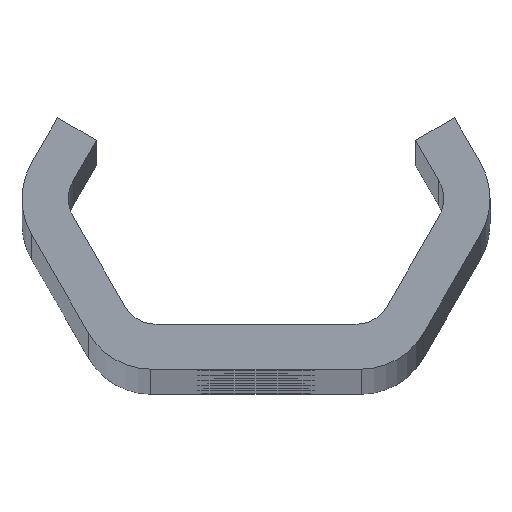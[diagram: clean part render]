
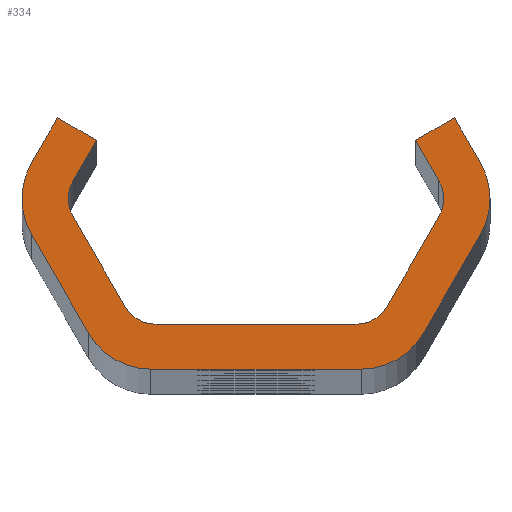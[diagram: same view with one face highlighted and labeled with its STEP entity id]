
A CAD part, top view. The second image highlights one B-rep face of the part: STEP entity #334.
In plain terms, the highlighted planar face has unit normal (0, 0, 1).
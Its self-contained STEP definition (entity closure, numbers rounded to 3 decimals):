
#334=ADVANCED_FACE('NONE',(#870),#871,.F.);
#870=FACE_OUTER_BOUND('',#2614,.T.);
#871=PLANE('',#2615);
#2614=EDGE_LOOP('',(#5256,#5257,#5258,#5259,#5260,#5261,#5262,#5263,#5264,#5265,#5266,#5267,#5268,#5269,#5270,#5271,#5272,#5273,#5274,#5275,#5276,#5277,#5278,#5279));
#2615=AXIS2_PLACEMENT_3D('',#5280,#5281,#5282);
#5256=ORIENTED_EDGE('',*,*,#6969,.T.);
#5257=ORIENTED_EDGE('',*,*,#6986,.T.);
#5258=ORIENTED_EDGE('',*,*,#6971,.T.);
#5259=ORIENTED_EDGE('',*,*,#6987,.T.);
#5260=ORIENTED_EDGE('',*,*,#6980,.F.);
#5261=ORIENTED_EDGE('',*,*,#6988,.T.);
#5262=ORIENTED_EDGE('',*,*,#6673,.T.);
#5263=ORIENTED_EDGE('',*,*,#6983,.F.);
#5264=ORIENTED_EDGE('',*,*,#6821,.F.);
#5265=ORIENTED_EDGE('',*,*,#6825,.F.);
#5266=ORIENTED_EDGE('',*,*,#6747,.T.);
#5267=ORIENTED_EDGE('',*,*,#6989,.T.);
#5268=ORIENTED_EDGE('',*,*,#6829,.F.);
#5269=ORIENTED_EDGE('',*,*,#6990,.T.);
#5270=ORIENTED_EDGE('',*,*,#6834,.F.);
#5271=ORIENTED_EDGE('',*,*,#6991,.T.);
#5272=ORIENTED_EDGE('',*,*,#6952,.T.);
#5273=ORIENTED_EDGE('',*,*,#6992,.T.);
#5274=ORIENTED_EDGE('',*,*,#6668,.T.);
#5275=ORIENTED_EDGE('',*,*,#6955,.T.);
#5276=ORIENTED_EDGE('',*,*,#6961,.T.);
#5277=ORIENTED_EDGE('',*,*,#6965,.T.);
#5278=ORIENTED_EDGE('',*,*,#6993,.T.);
#5279=ORIENTED_EDGE('',*,*,#6750,.T.);
#5280=CARTESIAN_POINT('',(0.0,0.0,800.0));
#5281=DIRECTION('',(0.0,0.0,-1.0));
#5282=DIRECTION('',(0.0,-1.0,0.0));
#6668=EDGE_CURVE('NONE',#7448,#7452,#7454,.T.);
#6673=EDGE_CURVE('NONE',#7457,#7461,#7463,.T.);
#6747=EDGE_CURVE('NONE',#7596,#7594,#7597,.T.);
#6750=EDGE_CURVE('NONE',#7600,#7601,#7602,.T.);
#6821=EDGE_CURVE('NONE',#7708,#7710,#7711,.T.);
#6825=EDGE_CURVE('NONE',#7596,#7708,#7715,.T.);
#6829=EDGE_CURVE('NONE',#7720,#7722,#7723,.T.);
#6834=EDGE_CURVE('NONE',#7729,#7731,#7732,.T.);
#6952=EDGE_CURVE('NONE',#7958,#7956,#7959,.T.);
#6955=EDGE_CURVE('NONE',#7452,#7962,#7963,.T.);
#6961=EDGE_CURVE('NONE',#7962,#7970,#7972,.T.);
#6965=EDGE_CURVE('NONE',#7970,#7976,#7978,.T.);
#6969=EDGE_CURVE('NONE',#7601,#7982,#7984,.T.);
#6971=EDGE_CURVE('NONE',#7986,#7987,#7988,.T.);
#6980=EDGE_CURVE('NONE',#8000,#8002,#8003,.T.);
#6983=EDGE_CURVE('NONE',#7710,#7461,#8006,.T.);
#6986=EDGE_CURVE('NONE',#7982,#7986,#8009,.T.);
#6987=EDGE_CURVE('NONE',#7987,#8002,#8010,.T.);
#6988=EDGE_CURVE('NONE',#8000,#7457,#8011,.T.);
#6989=EDGE_CURVE('NONE',#7594,#7722,#8012,.T.);
#6990=EDGE_CURVE('NONE',#7720,#7731,#8013,.T.);
#6991=EDGE_CURVE('NONE',#7729,#7958,#8014,.T.);
#6992=EDGE_CURVE('NONE',#7956,#7448,#8015,.T.);
#6993=EDGE_CURVE('NONE',#7976,#7600,#8016,.T.);
#7448=VERTEX_POINT('',#8606);
#7452=VERTEX_POINT('NONE',#8611);
#7454=CIRCLE('',#8614,2.0);
#7457=VERTEX_POINT('',#8617);
#7461=VERTEX_POINT('NONE',#8622);
#7463=CIRCLE('',#8625,4.0);
#7594=VERTEX_POINT('NONE',#9810);
#7596=VERTEX_POINT('NONE',#9813);
#7597=CIRCLE('',#9814,2.0);
#7600=VERTEX_POINT('NONE',#9818);
#7601=VERTEX_POINT('NONE',#9819);
#7602=CIRCLE('',#9820,4.0);
#7708=VERTEX_POINT('NONE',#9945);
#7710=VERTEX_POINT('NONE',#9948);
#7711=LINE('',#9949,#9950);
#7715=LINE('',#9956,#9957);
#7720=VERTEX_POINT('NONE',#9963);
#7722=VERTEX_POINT('NONE',#9966);
#7723=LINE('',#9967,#9968);
#7729=VERTEX_POINT('NONE',#9976);
#7731=VERTEX_POINT('NONE',#9979);
#7732=LINE('',#9980,#9981);
#7956=VERTEX_POINT('NONE',#10807);
#7958=VERTEX_POINT('NONE',#10810);
#7959=LINE('',#10811,#10812);
#7962=VERTEX_POINT('NONE',#10816);
#7963=LINE('',#10817,#10818);
#7970=VERTEX_POINT('NONE',#10828);
#7972=LINE('',#10831,#10832);
#7976=VERTEX_POINT('NONE',#10837);
#7978=LINE('',#10840,#10841);
#7982=VERTEX_POINT('NONE',#10846);
#7984=LINE('',#10849,#10850);
#7986=VERTEX_POINT('NONE',#10852);
#7987=VERTEX_POINT('NONE',#10853);
#7988=LINE('',#10854,#10855);
#8000=VERTEX_POINT('NONE',#10871);
#8002=VERTEX_POINT('NONE',#10874);
#8003=LINE('',#10875,#10876);
#8006=LINE('',#10880,#10881);
#8009=CIRCLE('',#10885,4.0);
#8010=CIRCLE('',#10886,4.0);
#8011=CIRCLE('',#10887,4.0);
#8012=CIRCLE('',#10888,2.0);
#8013=CIRCLE('',#10889,2.0);
#8014=CIRCLE('',#10890,2.0);
#8015=CIRCLE('',#10891,2.0);
#8016=CIRCLE('',#10892,4.0);
#8606=CARTESIAN_POINT('',(-10.455,0.,800.0));
#8611=CARTESIAN_POINT('',(-10.187,1.,800.0));
#8614=AXIS2_PLACEMENT_3D('',#12835,#12836,#12837);
#8617=CARTESIAN_POINT('',(13.032,0.,800.0));
#8622=CARTESIAN_POINT('',(12.496,2.0,800.0));
#8625=AXIS2_PLACEMENT_3D('',#12843,#12844,#12845);
#9810=CARTESIAN_POINT('',(10.455,0.,800.0));
#9813=CARTESIAN_POINT('',(10.187,1.,800.0));
#9814=AXIS2_PLACEMENT_3D('',#12890,#12891,#12892);
#9818=CARTESIAN_POINT('',(-13.032,0.,800.0));
#9819=CARTESIAN_POINT('',(-12.496,-2.,800.0));
#9820=AXIS2_PLACEMENT_3D('',#12894,#12895,#12896);
#9945=CARTESIAN_POINT('',(8.888,3.25,800.0));
#9948=CARTESIAN_POINT('',(11.053,4.5,800.0));
#9949=CARTESIAN_POINT('',(8.888,3.25,800.0));
#9950=VECTOR('',#13016,1000.0);
#9956=CARTESIAN_POINT('',(10.764,0.,800.0));
#9957=VECTOR('',#13019,1000.0);
#9963=CARTESIAN_POINT('',(7.3,-6.,800.0));
#9966=CARTESIAN_POINT('',(10.187,-1.,800.0));
#9967=CARTESIAN_POINT('',(6.723,-7.0,800.0));
#9968=VECTOR('',#13022,1000.0);
#9976=CARTESIAN_POINT('',(-5.568,-7.0,800.0));
#9979=CARTESIAN_POINT('',(5.568,-7.0,800.0));
#9980=CARTESIAN_POINT('',(-6.723,-7.0,800.0));
#9981=VECTOR('',#13026,1000.0);
#10807=CARTESIAN_POINT('',(-10.187,-1.,800.0));
#10810=CARTESIAN_POINT('',(-7.3,-6.,800.0));
#10811=CARTESIAN_POINT('',(-6.723,-7.0,800.0));
#10812=VECTOR('',#13135,1000.0);
#10816=CARTESIAN_POINT('',(-8.888,3.25,800.0));
#10817=CARTESIAN_POINT('',(-10.764,0.0,800.0));
#10818=VECTOR('',#13137,1000.0);
#10828=CARTESIAN_POINT('',(-11.053,4.5,800.0));
#10831=CARTESIAN_POINT('',(-8.888,3.25,800.0));
#10832=VECTOR('',#13142,1000.0);
#10837=CARTESIAN_POINT('',(-12.496,2.0,800.0));
#10840=CARTESIAN_POINT('',(-11.053,4.5,800.0));
#10841=VECTOR('',#13145,1000.0);
#10846=CARTESIAN_POINT('',(-9.321,-7.5,800.0));
#10849=CARTESIAN_POINT('',(-13.651,0.0,800.0));
#10850=VECTOR('',#13148,1000.0);
#10852=CARTESIAN_POINT('',(-5.857,-9.5,800.0));
#10853=CARTESIAN_POINT('',(5.857,-9.5,800.0));
#10854=CARTESIAN_POINT('',(-8.166,-9.5,800.0));
#10855=VECTOR('',#13149,1000.0);
#10871=CARTESIAN_POINT('',(12.496,-2.,800.0));
#10874=CARTESIAN_POINT('',(9.321,-7.5,800.0));
#10875=CARTESIAN_POINT('',(13.651,0.,800.0));
#10876=VECTOR('',#13161,1000.0);
#10880=CARTESIAN_POINT('',(11.053,4.5,800.0));
#10881=VECTOR('',#13163,1000.0);
#10885=AXIS2_PLACEMENT_3D('',#13165,#13166,#13167);
#10886=AXIS2_PLACEMENT_3D('',#13168,#13169,#13170);
#10887=AXIS2_PLACEMENT_3D('',#13171,#13172,#13173);
#10888=AXIS2_PLACEMENT_3D('',#13174,#13175,#13176);
#10889=AXIS2_PLACEMENT_3D('',#13177,#13178,#13179);
#10890=AXIS2_PLACEMENT_3D('',#13180,#13181,#13182);
#10891=AXIS2_PLACEMENT_3D('',#13183,#13184,#13185);
#10892=AXIS2_PLACEMENT_3D('',#13186,#13187,#13188);
#12835=CARTESIAN_POINT('',(-8.455,0.,800.0));
#12836=DIRECTION('',(0.0,0.0,-1.0));
#12837=DIRECTION('',(-1.0,0.0,0.0));
#12843=CARTESIAN_POINT('',(9.032,0.,800.0));
#12844=DIRECTION('',(0.0,0.0,1.0));
#12845=DIRECTION('',(-1.0,0.,0.0));
#12890=CARTESIAN_POINT('',(8.455,0.,800.0));
#12891=DIRECTION('',(0.0,0.0,-1.0));
#12892=DIRECTION('',(-1.0,0.0,0.0));
#12894=CARTESIAN_POINT('',(-9.032,0.,800.0));
#12895=DIRECTION('',(0.0,0.0,1.0));
#12896=DIRECTION('',(-1.0,0.0,0.0));
#13016=DIRECTION('',(0.866,0.5,0.0));
#13019=DIRECTION('',(-0.5,0.866,0.0));
#13022=DIRECTION('',(0.5,0.866,0.0));
#13026=DIRECTION('',(1.0,0.,0.0));
#13135=DIRECTION('',(-0.5,0.866,0.0));
#13137=DIRECTION('',(0.5,0.866,0.0));
#13142=DIRECTION('',(-0.866,0.5,0.0));
#13145=DIRECTION('',(-0.5,-0.866,0.0));
#13148=DIRECTION('',(0.5,-0.866,0.0));
#13149=DIRECTION('',(1.0,0.,0.0));
#13161=DIRECTION('',(-0.5,-0.866,0.0));
#13163=DIRECTION('',(0.5,-0.866,0.0));
#13165=CARTESIAN_POINT('',(-5.857,-5.5,800.0));
#13166=DIRECTION('',(0.0,0.0,1.0));
#13167=DIRECTION('',(-1.0,0.0,0.0));
#13168=CARTESIAN_POINT('',(5.857,-5.5,800.0));
#13169=DIRECTION('',(0.0,0.0,1.0));
#13170=DIRECTION('',(-1.0,0.0,0.0));
#13171=CARTESIAN_POINT('',(9.032,0.,800.0));
#13172=DIRECTION('',(0.0,0.0,1.0));
#13173=DIRECTION('',(-1.0,0.,0.0));
#13174=CARTESIAN_POINT('',(8.455,0.,800.0));
#13175=DIRECTION('',(0.0,0.0,-1.0));
#13176=DIRECTION('',(-1.0,0.0,0.0));
#13177=CARTESIAN_POINT('',(5.568,-5.0,800.0));
#13178=DIRECTION('',(0.0,0.0,-1.0));
#13179=DIRECTION('',(-1.0,0.0,0.0));
#13180=CARTESIAN_POINT('',(-5.568,-5.0,800.0));
#13181=DIRECTION('',(0.0,0.0,-1.0));
#13182=DIRECTION('',(-1.0,0.0,0.0));
#13183=CARTESIAN_POINT('',(-8.455,0.,800.0));
#13184=DIRECTION('',(0.0,0.0,-1.0));
#13185=DIRECTION('',(-1.0,0.0,0.0));
#13186=CARTESIAN_POINT('',(-9.032,0.,800.0));
#13187=DIRECTION('',(0.0,0.0,1.0));
#13188=DIRECTION('',(-1.0,0.,0.0));
